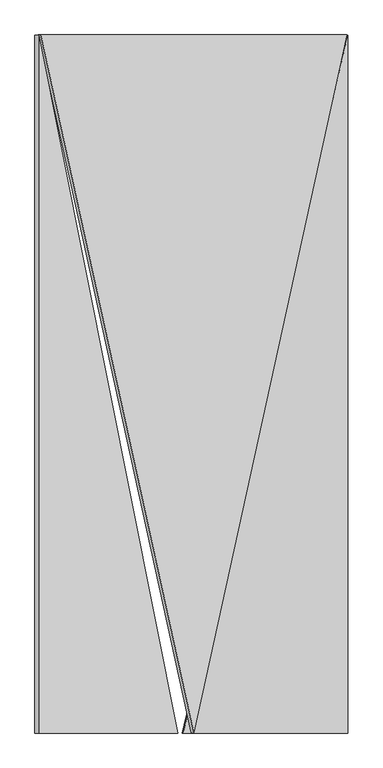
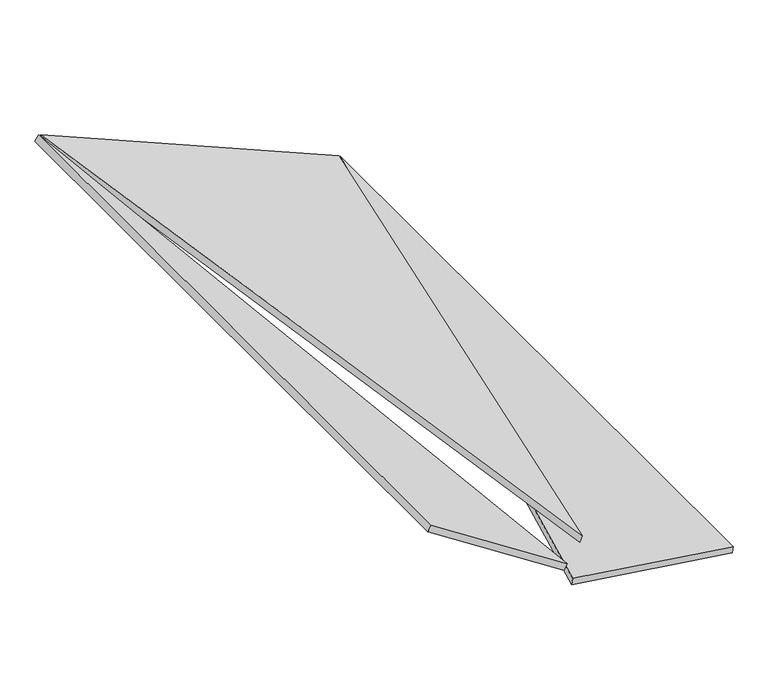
"""IFC4 building model written with IfcOpenShell, lengths in millimetres: proxy geometry, panel sufitowy 6 : panel sufitowy 6."""

from ifc_helpers import new_model, si_unit, frame, origin, place, context, project, spatial, polyline, outline, extrude, source, transform, mapped, element, save


def generic_models_786d5ee3(model_context):
    return source(origin(), model_context, "Body", "SweptSolid", [
        extrude(outline(polyline([(-900.9098917, 0.0), (1235.4098448, 1e-07), (1006.1909889, -962.7191946), (-900.9098917, 0.0)])), frame((499.94535, -1457.4151922, 970.7213788), z_axis=(0.3907311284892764, 0.0, 0.9205048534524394), x_axis=(-0.21320781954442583, 0.9728062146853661, 0.09050135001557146)), (0.0, 0.0, 1.0), 20.0),
        extrude(outline(polyline([(-127.5, 0.0), (-622.5, 0.0), (-127.5, 2079.0), (-127.5, 0.0)])), frame((1282.8831958, -2335.0, 674.2332519), z_axis=(0.13917310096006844, 0.0, 0.9902680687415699), x_axis=(0.9902680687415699, 0.0, -0.13917310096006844)), (0.0, 0.0, 1.0), 20.0),
        extrude(outline(polyline([(-127.5, 0.0), (-127.5, -2079.0), (-622.5, 0.0), (-127.5, 0.0)])), frame((119.9836176, -2335.0, 1156.057739), z_axis=(0.5446390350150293, 0.0, 0.8386705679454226), x_axis=(-0.8386705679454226, 0.0, 0.5446390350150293)), (0.0, 0.0, 1.0), 20.0),
    ])


if __name__ == "__main__":
    model = new_model("IFC4")
    model_context = context("Model", 3, world=origin())
    ifc_project = project(units=[si_unit("LENGTHUNIT", "METRE", prefix="MILLI")], contexts=[model_context])
    site = spatial("IfcSite", under=ifc_project)
    building = spatial("IfcBuilding", under=site)
    placement = place(None, origin())
    generic_models_shape = generic_models_786d5ee3(model_context)
    element("IfcBuildingElementProxy", 1, Name="panel sufitowy 6 : panel sufitowy 6", ObjectType="panel sufitowy 6 : panel sufitowy 6", at=placement, inside=building, context=model_context, shape_type="MappedRepresentation", body=[
        mapped(generic_models_shape, transform((0.0, 0.0, 0.0), x_axis=(1.0, 0.0, 0.0), y_axis=(0.0, 1.0, 0.0), z_axis=(0.0, 0.0, 1.0))),
    ])
    save(model, "model.ifc")
